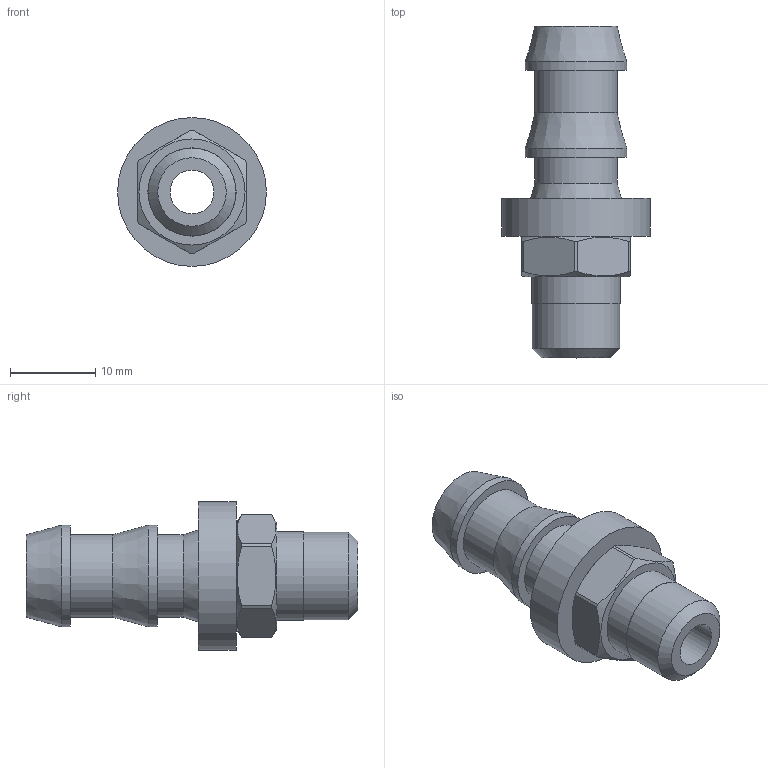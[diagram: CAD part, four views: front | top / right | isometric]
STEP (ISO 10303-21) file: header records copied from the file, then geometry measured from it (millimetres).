
FILE_DESCRIPTION(/* description */ (''),/* implementation_level */ '2;1');
FILE_NAME(/* name */ 'C:/Users/drich/Desktop/PLM-06-02 v2.step',/* time_stamp */ '2020-02-02T14:45:29-06:00',/* author */ (''),/* organization */ (''),/* preprocessor_version */ 'ST-DEVELOPER v18',/* originating_system */ 'Autodesk Translation Framework v8.12.0.6',/* authorisation */ '');
FILE_SCHEMA (('AUTOMOTIVE_DESIGN { 1 0 10303 214 3 1 1 }'));
Length unit declared in the file: inch
Products named in the file (4): PLM-06-02; -06 BARB ONLY; 18  -02 THREAD; FW-6
Assembly tree (3 placements, depth 2):
  PLM-06-02
    -06 BARB ONLY
    18  -02 THREAD
    FW-6
Bounding box: 17.45 x 38.91 x 17.45 mm (x, y, z)
Volume: 2859.8 mm3; surface area: 3278.7 mm2
Topology: 3 solids, 3 shells, 44 faces, 116 edges, 84 vertices
Faces by surface type: cylinder 19, plane 18, cone 7
Full cylindrical faces by diameter (mm): 5.156 x1, 6.731 x1, 8.331 x1, 9.652 x2, 10.312 x2, 10.363 x1, 11.938 x3, 14.91 x1, 17.45 x1
Entity records: 1565 total; most frequent: DIRECTION 278, CARTESIAN_POINT 275, ORIENTED_EDGE 232, AXIS2_PLACEMENT_3D 123, EDGE_CURVE 116, VERTEX_POINT 84, CIRCLE 72, EDGE_LOOP 56
